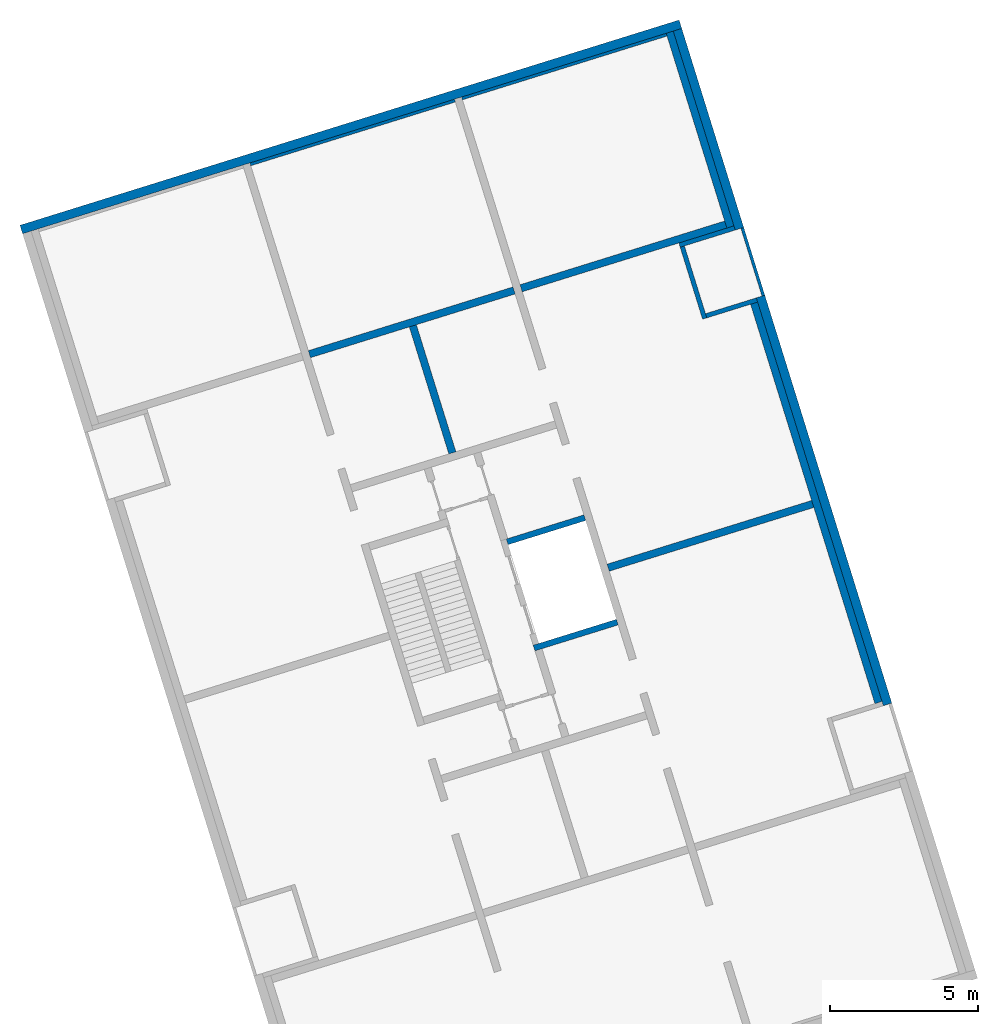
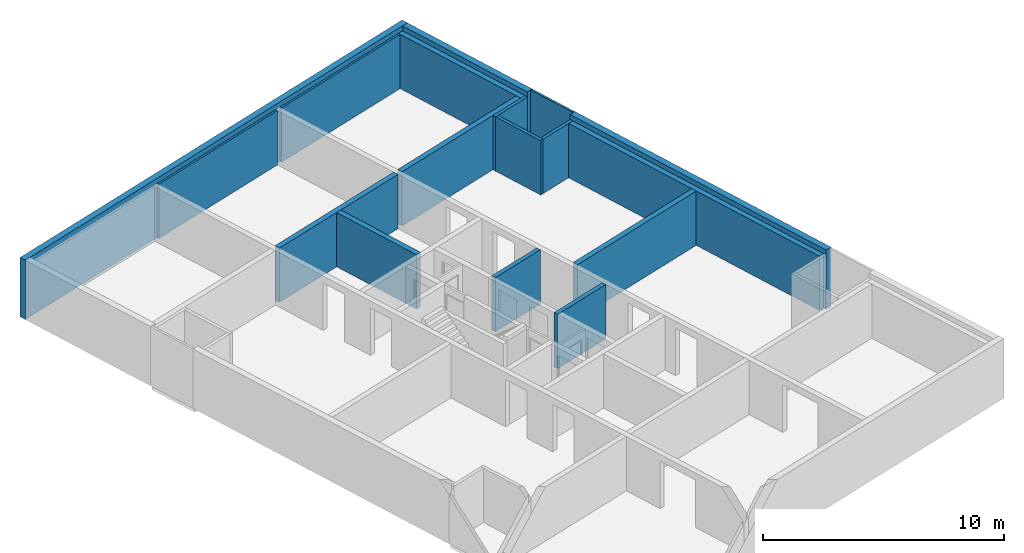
# One storey, part 3 of 5: 17 walls.
"""IFC4 building model written with IfcOpenShell, lengths in metres."""

from ifc_helpers import new_model, entity, si_unit, converted_unit, direction, frame, origin, place, context, subcontext, project, spatial, indexed_curve, outline, extrude, material, type_object, element, save


model = new_model("IFC4")

# Units and contexts
model_context = context("Model", 3, precision=1e-05, world=origin(), true_north=direction((6.12323399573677e-17, 1.0)))
body_context = subcontext(model_context, "Body", "Model", "MODEL_VIEW")
ifc_project = project(units=[si_unit("LENGTHUNIT", "METRE"), si_unit("AREAUNIT", "SQUARE_METRE"), si_unit("VOLUMEUNIT", "CUBIC_METRE"), converted_unit("PLANEANGLEUNIT", "DEGREE", entity("IfcPlaneAngleMeasure", 0.0174532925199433), si_unit("PLANEANGLEUNIT", "RADIAN"), dimensions=[0, 0, 0, 0, 0, 0, 0])], contexts=[model_context])

# Site, building, storey
site_placement = place(None, frame((13.1347999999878, 11.9886000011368, 0.0), z_axis=(0.0, 0.0, 1.0), x_axis=(0.954770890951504, 0.297342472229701, 0.0)))
site = spatial("IfcSite", under=ifc_project, at=site_placement, Name="Schiehaven", CompositionType="ELEMENT")
building_placement = place(site_placement, origin())
building = spatial("IfcBuilding", under=site, at=building_placement, Name="VORM huis", CompositionType="ELEMENT")
storey_placement = place(building_placement, frame((0.0, 0.0, 3.9)))
storey = spatial("IfcBuildingStorey", under=building, at=storey_placement, Name="01 eerste verdieping", CompositionType="ELEMENT", Elevation=3.9)

# Walls
ifc_material_1 = material(Name="beton_gewapend_ihw", Category="Miscellaneous")
wall_type_1 = type_object("IfcWallType", Name="Basic Wall:28_WA_skelet_wand 250mm_gen", PredefinedType="STANDARD")
wall_1_placement = place(storey_placement, frame((80.0, 9.97500000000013, 0.0), z_axis=(0.0, 0.0, 1.0), x_axis=(0.0, 1.0, 0.0)))
element("IfcWall", 1, at=wall_1_placement, inside=storey, type_object=wall_type_1, material=ifc_material_1, Name="Constructieve wand", ObjectType="Wand", PredefinedType="NOTDEFINED", context=body_context, shape_type="SweptSolid", body=[
    extrude(outline(indexed_curve([(14.1499999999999, 0.124999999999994), (7.23171268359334e-16, 0.125000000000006), (1.44256299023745e-15, -0.125000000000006), (14.1499999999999, -0.125000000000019), (14.1499999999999, 0.124999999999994)], self_intersect=False)), origin(), (0.0, 0.0, 1.0), 2.75),
])
wall_2_placement = place(storey_placement, frame((80.0, 26.825, 0.0), z_axis=(0.0, 0.0, 1.0), x_axis=(0.0, 1.0, 0.0)))
element("IfcWall", 2, at=wall_2_placement, inside=storey, type_object=wall_type_1, material=ifc_material_1, Name="Constructieve wand", ObjectType="Wand", PredefinedType="NOTDEFINED", context=body_context, shape_type="SweptSolid", body=[
    extrude(outline(indexed_curve([(6.90000000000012, 0.125000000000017), (7.39669090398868e-16, 0.125000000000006), (-7.39669090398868e-16, -0.125000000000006), (6.90000000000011, -0.124999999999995), (6.90000000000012, 0.125000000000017)], self_intersect=False)), origin(), (0.0, 0.0, 1.0), 2.75),
])
ifc_material_2 = material(Name="ntb_ntb_ntb", Category="Miscellaneous")
wall_type_2 = type_object("IfcWallType", Name="Basic Wall:21_WA_gevel_binnenspouwwand 100mm_gen", PredefinedType="STANDARD")
wall_3_placement = place(storey_placement, frame((79.8750000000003, 33.675, 0.0), z_axis=(0.0, 0.0, 1.0), x_axis=(-1.0, 0.0, 0.0)))
element("IfcWall", 3, at=wall_3_placement, inside=storey, type_object=wall_type_2, material=ifc_material_2, Name="Binnenspouwblad", ObjectType="Wand", PredefinedType="NOTDEFINED", context=body_context, shape_type="SweptSolid", body=[
    extrude(outline(indexed_curve([(7.24999999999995, 0.0499999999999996), (1.63227275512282e-16, 0.0500000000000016), (-1.63227275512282e-16, -0.0500000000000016), (7.24999999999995, -0.0500000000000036), (7.24999999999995, 0.0499999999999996)], self_intersect=False)), origin(), (0.0, 0.0, 1.0), 2.75),
])
wall_4_placement = place(storey_placement, frame((65.1250000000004, 33.675, 0.0)))
element("IfcWall", 4, at=wall_4_placement, inside=storey, type_object=wall_type_2, material=ifc_material_2, Name="Binnenspouwblad", ObjectType="Wand", PredefinedType="NOTDEFINED", context=body_context, shape_type="SweptSolid", body=[
    extrude(outline(indexed_curve([(7.24999999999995, 0.0500000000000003), (9.03402505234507e-18, 0.0500000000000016), (-9.03402505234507e-18, -0.0500000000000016), (7.24999999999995, -0.0500000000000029), (7.24999999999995, 0.0500000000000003)], self_intersect=False)), origin(), (0.0, 0.0, 1.0), 2.75),
])
wall_type_3 = type_object("IfcWallType", Name="Basic Wall: 300mm_gen", PredefinedType="STANDARD")
wall_5_placement = place(storey_placement, frame((80.4250000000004, 33.875, 0.0), z_axis=(0.0, 0.0, 1.0), x_axis=(-1.0, 0.0, 0.0)))
element("IfcWall", 5, at=wall_5_placement, inside=storey, type_object=wall_type_3, material=ifc_material_2, Name="Gevelwand", ObjectType="Wand", PredefinedType="NOTDEFINED", context=body_context, shape_type="SweptSolid", body=[
    extrude(outline(indexed_curve([(23.3500000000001, 0.15), (3.95309745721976e-16, 0.150000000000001), (-3.95309745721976e-16, -0.150000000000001), (23.3500000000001, -0.150000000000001), (23.3500000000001, 0.15)], self_intersect=False)), origin(), (0.0, 0.0, 1.0), 3.0),
])
wall_6_placement = place(storey_placement, frame((80.2750000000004, 9.82500000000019, 0.0), z_axis=(0.0, 0.0, 1.0), x_axis=(0.0, 1.0, 0.0)))
element("IfcWall", 6, at=wall_6_placement, inside=storey, type_object=wall_type_3, material=ifc_material_2, Name="Gevelwand", ObjectType="Wand", PredefinedType="NOTDEFINED", context=body_context, shape_type="SweptSolid", body=[
    extrude(outline(indexed_curve([(14.4499999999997, 0.149999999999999), (3.79484572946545e-16, 0.150000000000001), (1.78624968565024e-15, -0.150000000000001), (14.4499999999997, -0.150000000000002), (14.4499999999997, 0.149999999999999)], self_intersect=False)), origin(), (0.0, 0.0, 1.0), 3.0),
])
wall_7_placement = place(storey_placement, frame((80.2750000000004, 26.675, 0.0), z_axis=(0.0, 0.0, 1.0), x_axis=(0.0, 1.0, 0.0)))
element("IfcWall", 7, at=wall_7_placement, inside=storey, type_object=wall_type_3, material=ifc_material_2, Name="Gevelwand", ObjectType="Wand", PredefinedType="NOTDEFINED", context=body_context, shape_type="SweptSolid", body=[
    extrude(outline(indexed_curve([(7.04999999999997, 0.149999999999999), (4.03059102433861e-16, 0.150000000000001), (-4.03059102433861e-16, -0.150000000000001), (7.04999999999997, -0.150000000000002), (7.04999999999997, 0.149999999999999)], self_intersect=False)), origin(), (0.0, 0.0, 1.0), 3.0),
])
ifc_material_3 = material(Name="beton_gewapend_prefab-element", Category="Miscellaneous")
wall_type_4 = type_object("IfcWallType", Name="Basic Wall:28_WA_skelet_wand 200mm_gen", PredefinedType="STANDARD")
wall_8_placement = place(storey_placement, frame((72.3750000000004, 15.2000000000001, 0.0), z_axis=(0.0, 0.0, 1.0), x_axis=(-1.0, 0.0, 0.0)))
element("IfcWall", 8, at=wall_8_placement, inside=storey, type_object=wall_type_4, material=ifc_material_3, Name="Constructieve wand", ObjectType="Wand", PredefinedType="NOTDEFINED", context=body_context, shape_type="SweptSolid", body=[
    extrude(outline(indexed_curve([(2.95, 0.0999999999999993), (3.5332231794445e-16, 0.0999999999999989), (-3.5332231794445e-16, -0.0999999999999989), (2.95, -0.0999999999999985), (2.95, 0.0999999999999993)], self_intersect=False)), origin(), (0.0, 0.0, 1.0), 2.75),
])
wall_9_placement = place(storey_placement, frame((69.6250000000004, 18.9, 0.0)))
element("IfcWall", 9, at=wall_9_placement, inside=storey, type_object=wall_type_4, material=ifc_material_3, Name="Constructieve wand", ObjectType="Wand", PredefinedType="NOTDEFINED", context=body_context, shape_type="SweptSolid", body=[
    extrude(outline(indexed_curve([(2.75, 0.0999999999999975), (2.07315726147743e-16, 0.0999999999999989), (-2.07315726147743e-16, -0.0999999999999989), (2.75, -0.1), (2.75, 0.0999999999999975)], self_intersect=False)), origin(), (0.0, 0.0, 1.0), 2.75),
])
wall_type_5 = type_object("IfcWallType", Name="Basic Wall:22_WA_afbouw_binnenwand 250mm_gen", PredefinedType="STANDARD")
wall_10_placement = place(storey_placement, frame((72.6250000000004, 17.05, 0.0)))
element("IfcWall", 10, at=wall_10_placement, inside=storey, type_object=wall_type_5, material=ifc_material_2, Name="Binnenwand", ObjectType="Wand", PredefinedType="NOTDEFINED", context=body_context, shape_type="SweptSolid", body=[
    extrude(outline(indexed_curve([(7.24999999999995, 0.124999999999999), (5.6918223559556e-16, 0.125), (-5.6918223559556e-16, -0.125), (7.24999999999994, -0.125), (7.24999999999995, 0.124999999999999)], self_intersect=False)), origin(), (0.0, 0.0, 1.0), 2.75),
])
wall_11_placement = place(storey_placement, frame((68.7500000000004, 22.325, 0.0), z_axis=(0.0, 0.0, 1.0), x_axis=(0.0, 1.0, 0.0)))
element("IfcWall", 11, at=wall_11_placement, inside=storey, type_object=wall_type_5, material=ifc_material_2, Name="Binnenwand", ObjectType="Wand", PredefinedType="NOTDEFINED", context=body_context, shape_type="SweptSolid", body=[
    extrude(outline(indexed_curve([(4.49999999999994, 0.124999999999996), (7.62151676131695e-16, 0.124999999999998), (-7.62151676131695e-16, -0.124999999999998), (4.49999999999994, -0.124999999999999), (4.49999999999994, 0.124999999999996)], self_intersect=False)), origin(), (0.0, 0.0, 1.0), 2.75),
])
wall_12_placement = place(storey_placement, frame((72.3750000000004, 26.95, 0.0), z_axis=(0.0, 0.0, 1.0), x_axis=(-1.0, 0.0, 0.0)))
element("IfcWall", 12, at=wall_12_placement, inside=storey, type_object=wall_type_5, material=ifc_material_2, Name="Binnenwand", ObjectType="Wand", PredefinedType="NOTDEFINED", context=body_context, shape_type="SweptSolid", body=[
    extrude(outline(indexed_curve([(7.24999999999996, 0.125000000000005), (6.85879083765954e-16, 0.125000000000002), (-6.85879083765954e-16, -0.125000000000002), (7.24999999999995, -0.124999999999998), (7.24999999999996, 0.125000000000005)], self_intersect=False)), origin(), (0.0, 0.0, 1.0), 2.75),
])
wall_13_placement = place(storey_placement, frame((79.8750000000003, 26.95, 0.0), z_axis=(0.0, 0.0, 1.0), x_axis=(-1.0, 0.0, 0.0)))
element("IfcWall", 13, at=wall_13_placement, inside=storey, type_object=wall_type_5, material=ifc_material_2, Name="Binnenwand", ObjectType="Wand", PredefinedType="NOTDEFINED", context=body_context, shape_type="SweptSolid", body=[
    extrude(outline(indexed_curve([(7.24999999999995, 0.125000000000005), (6.85879083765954e-16, 0.125000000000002), (-6.85879083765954e-16, -0.125000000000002), (7.24999999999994, -0.124999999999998), (7.24999999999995, 0.125000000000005)], self_intersect=False)), origin(), (0.0, 0.0, 1.0), 2.75),
])
wall_type_6 = type_object("IfcWallType", Name="Basic Wall: 150mm_gen", PredefinedType="STANDARD")
wall_14_placement = place(storey_placement, frame((80.1250000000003, 26.75, 0.0), z_axis=(0.0, 0.0, 1.0), x_axis=(-1.0, 0.0, 0.0)))
element("IfcWall", 14, at=wall_14_placement, inside=storey, type_object=wall_type_6, material=ifc_material_2, Name="Gevelwand", ObjectType="Wand", PredefinedType="NOTDEFINED", context=body_context, shape_type="SweptSolid", body=[
    extrude(outline(indexed_curve([(1.94999999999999, 0.0750000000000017), (2.77699732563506e-16, 0.0750000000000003), (-2.77699732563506e-16, -0.0750000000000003), (1.94999999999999, -0.0749999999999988), (1.94999999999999, 0.0750000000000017)], self_intersect=False)), origin(), (0.0, 0.0, 1.0), 2.75),
])
wall_15_placement = place(storey_placement, frame((78.2500000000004, 26.675, 0.0), z_axis=(0.0, 0.0, 1.0), x_axis=(0.0, -1.0, 0.0)))
element("IfcWall", 15, at=wall_15_placement, inside=storey, type_object=wall_type_6, material=ifc_material_2, Name="Gevelwand", ObjectType="Wand", PredefinedType="NOTDEFINED", context=body_context, shape_type="SweptSolid", body=[
    extrude(outline(indexed_curve([(2.55, 0.0749999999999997), (5.26760578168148e-16, 0.0750000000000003), (-5.26760578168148e-16, -0.0750000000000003), (2.55, -0.0750000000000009), (2.55, 0.0749999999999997)], self_intersect=False)), origin(), (0.0, 0.0, 1.0), 2.75),
])
wall_16_placement = place(storey_placement, frame((78.3250000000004, 24.2, 0.0)))
element("IfcWall", 16, at=wall_16_placement, inside=storey, type_object=wall_type_6, material=ifc_material_2, Name="Gevelwand", ObjectType="Wand", PredefinedType="NOTDEFINED", context=body_context, shape_type="SweptSolid", body=[
    extrude(outline(indexed_curve([(1.79999999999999, 0.0750000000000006), (5.26760578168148e-16, 0.0750000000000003), (-5.26760578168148e-16, -0.0750000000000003), (1.79999999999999, -0.0749999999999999), (1.79999999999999, 0.0750000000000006)], self_intersect=False)), origin(), (0.0, 0.0, 1.0), 2.75),
])
wall_type_7 = type_object("IfcWallType", Name="Basic Wall: 100mm_gen", PredefinedType="STANDARD")
wall_17_placement = place(storey_placement, frame((80.3750000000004, 26.675, 0.0), z_axis=(0.0, 0.0, 1.0), x_axis=(0.0, -1.0, 0.0)))
element("IfcWall", 17, at=wall_17_placement, inside=storey, type_object=wall_type_7, material=ifc_material_2, Name="Gevelwand", ObjectType="Wand", PredefinedType="NOTDEFINED", context=body_context, shape_type="SweptSolid", body=[
    extrude(outline(indexed_curve([(2.4, 0.05000000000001), (2.77203883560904e-16, 0.050000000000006), (-2.77203883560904e-16, -0.050000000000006), (2.4, -0.0500000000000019), (2.4, 0.05000000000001)], self_intersect=False)), origin(), (0.0, 0.0, 1.0), 3.0),
])

save(model, "model.ifc")
